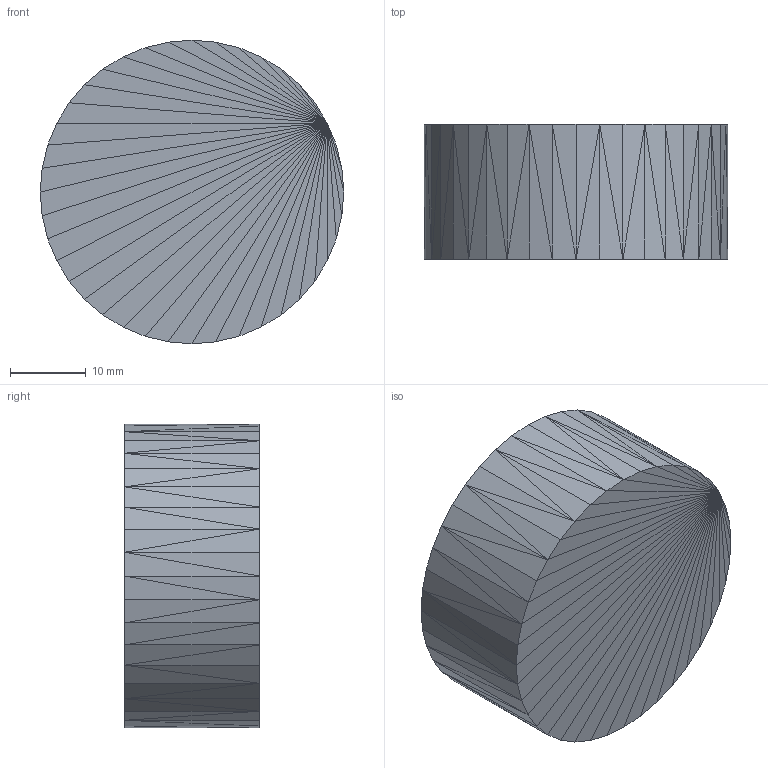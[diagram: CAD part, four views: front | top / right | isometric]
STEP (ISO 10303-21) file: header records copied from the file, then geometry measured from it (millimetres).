
FILE_DESCRIPTION(('Open CASCADE Model'),'2;1');
FILE_NAME('Open CASCADE Shape Model','2026-07-28T00:00:00+00:00',( 'Author'),('Open CASCADE'),'Open CASCADE STEP processor 7.8', 'build123d','Unknown');
FILE_SCHEMA(('AUTOMOTIVE_DESIGN { 1 0 10303 214 1 1 1 1 }'));
Length unit declared in the file: millimetre
Products named in the file (1): SOLID
Bounding box: 40 x 17.75 x 40 mm (x, y, z)
Volume: 22213.7 mm3; surface area: 4731.2 mm2
Topology: 1 solids, 1 shells, 156 faces, 234 edges, 80 vertices
Faces by surface type: plane 156
Entity records: 5872 total; most frequent: CARTESIAN_POINT 1173, DIRECTION 782, ORIENTED_EDGE 468, LINE 468, VECTOR 468, PCURVE 468, DEFINITIONAL_REPRESENTATION 468, EDGE_CURVE 234
